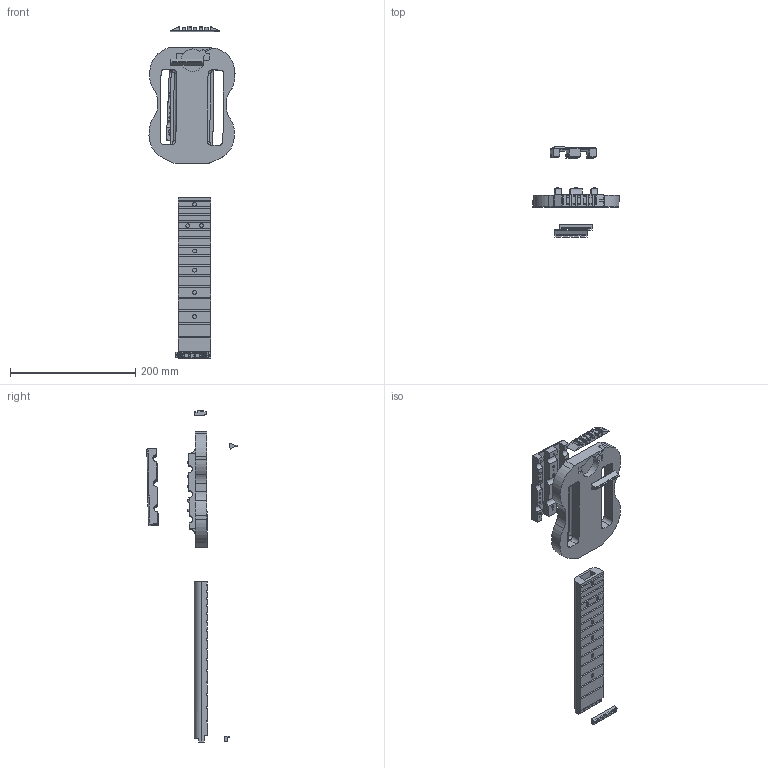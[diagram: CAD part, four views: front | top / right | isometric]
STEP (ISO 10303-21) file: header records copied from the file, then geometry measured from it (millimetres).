
FILE_DESCRIPTION(('STEP AP203'), '1');
FILE_NAME('栖闉罻', '', ('UNSPECIFIED'), ('UNSPECIFIED'), 'ASCON STEP Converter 1.3', 'ASCON Math Kernel', '');
FILE_SCHEMA(('CONFIG_CONTROL_DESIGN'));
Length unit declared in the file: millimetre
Assembly tree (6 placements, depth 2):
  (unnamed)
    (unnamed)
    (unnamed)
    (unnamed)
    (unnamed)
    (unnamed)
    (unnamed)
Bounding box: 137.23 x 144.03 x 529.72 mm (x, y, z)
Volume: 553286.6 mm3; surface area: 174092 mm2
Topology: 6 solids, 6 shells, 588 faces, 1489 edges, 945 vertices
Faces by surface type: plane 397, cylinder 150, cone 29, bspline 8, torus 4
Full cylindrical faces by diameter (mm): 2 x12, 3 x14, 4 x15, 6 x7
Entity records: 23117 total; most frequent: CARTESIAN_POINT 3868, DIRECTION 2923, ORIENTED_EDGE 2824, EDGE_CURVE 1412, LINE 1027, VECTOR 1027, AXIS2_PLACEMENT_3D 948, VERTEX_POINT 945
